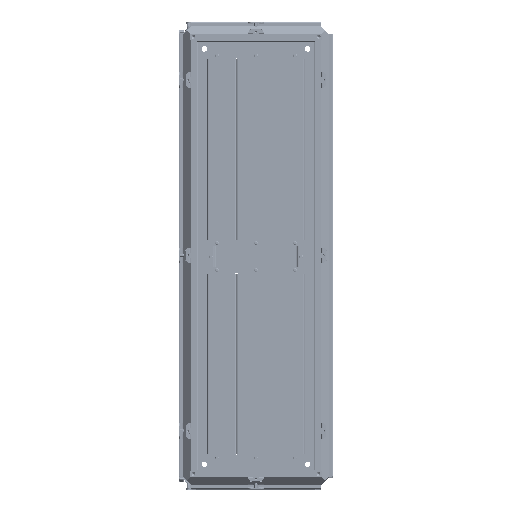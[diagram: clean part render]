
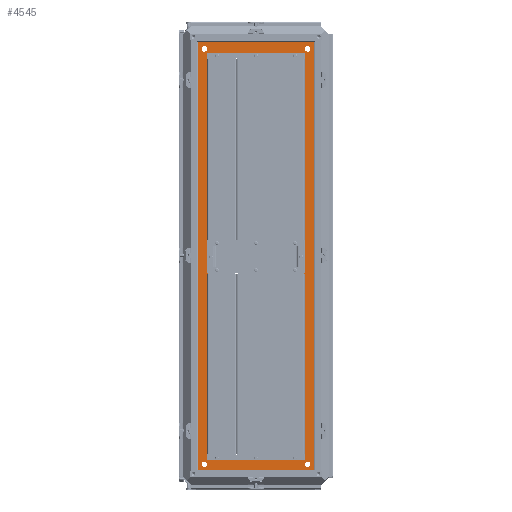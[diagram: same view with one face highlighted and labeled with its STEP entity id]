
A CAD part, top view. The second image highlights one B-rep face of the part: STEP entity #4545.
In plain terms, the highlighted planar face has unit normal (0, 0, 1).
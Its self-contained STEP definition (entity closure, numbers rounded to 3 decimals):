
#4545=ADVANCED_FACE('',(#18127,#18129,#18131,#18133,#18135,#18137),#18139,.F.);
#18127=FACE_BOUND('',#18128,.T.);
#18128=EDGE_LOOP('',(#123587,#123588,#123589,#123590));
#18129=FACE_BOUND('',#18130,.T.);
#18130=EDGE_LOOP('',(#123591,#123592,#123593,#123594));
#18131=FACE_BOUND('',#18132,.T.);
#18132=EDGE_LOOP('',(#123595));
#18133=FACE_BOUND('',#18134,.T.);
#18134=EDGE_LOOP('',(#123596));
#18135=FACE_BOUND('',#18136,.T.);
#18136=EDGE_LOOP('',(#123597));
#18137=FACE_BOUND('',#18138,.T.);
#18138=EDGE_LOOP('',(#123598));
#18139=PLANE('',#18140);
#18140=AXIS2_PLACEMENT_3D('',#18141,#18142,#18143);
#18141=CARTESIAN_POINT('',(0.,0.,-47.5));
#18142=DIRECTION('',(0.,0.,-1.));
#18143=DIRECTION('',(0.,1.,0.));
#123587=ORIENTED_EDGE('',*,*,#187289,.F.);
#123588=ORIENTED_EDGE('',*,*,#187290,.F.);
#123589=ORIENTED_EDGE('',*,*,#187291,.T.);
#123590=ORIENTED_EDGE('',*,*,#187292,.T.);
#123591=ORIENTED_EDGE('',*,*,#187293,.T.);
#123592=ORIENTED_EDGE('',*,*,#187294,.F.);
#123593=ORIENTED_EDGE('',*,*,#187295,.F.);
#123594=ORIENTED_EDGE('',*,*,#187296,.F.);
#123595=ORIENTED_EDGE('',*,*,#187297,.T.);
#123596=ORIENTED_EDGE('',*,*,#187298,.F.);
#123597=ORIENTED_EDGE('',*,*,#187299,.F.);
#123598=ORIENTED_EDGE('',*,*,#187300,.T.);
#187289=EDGE_CURVE('',#220072,#220073,#220074,.F.);
#187290=EDGE_CURVE('',#220075,#220072,#220076,.F.);
#187291=EDGE_CURVE('',#220075,#220077,#220078,.F.);
#187292=EDGE_CURVE('',#220077,#220073,#220079,.F.);
#187293=EDGE_CURVE('',#220080,#220081,#220082,.F.);
#187294=EDGE_CURVE('',#220083,#220081,#220084,.F.);
#187295=EDGE_CURVE('',#220085,#220083,#220086,.F.);
#187296=EDGE_CURVE('',#220080,#220085,#220087,.F.);
#187297=EDGE_CURVE('',#220088,#220088,#220089,.T.);
#187298=EDGE_CURVE('',#220090,#220090,#220091,.T.);
#187299=EDGE_CURVE('',#220092,#220092,#220093,.T.);
#187300=EDGE_CURVE('',#220094,#220094,#220095,.T.);
#220072=VERTEX_POINT('',#277141);
#220073=VERTEX_POINT('',#277142);
#220074=LINE('',#277143,#277144);
#220075=VERTEX_POINT('',#277146);
#220076=LINE('',#277147,#277148);
#220077=VERTEX_POINT('',#277150);
#220078=LINE('',#277151,#277152);
#220079=LINE('',#277154,#277155);
#220080=VERTEX_POINT('',#277157);
#220081=VERTEX_POINT('',#277158);
#220082=LINE('',#277159,#277160);
#220083=VERTEX_POINT('',#277162);
#220084=LINE('',#277163,#277164);
#220085=VERTEX_POINT('',#277166);
#220086=LINE('',#277167,#277168);
#220087=LINE('',#277170,#277171);
#220088=VERTEX_POINT('',#277173);
#220089=CIRCLE('',#277174,7.);
#220090=VERTEX_POINT('',#277178);
#220091=CIRCLE('',#277179,7.);
#220092=VERTEX_POINT('',#277183);
#220093=CIRCLE('',#277184,7.);
#220094=VERTEX_POINT('',#277188);
#220095=CIRCLE('',#277189,7.);
#277141=CARTESIAN_POINT('',(-1.6,1.6,-47.5));
#277142=CARTESIAN_POINT('',(-300.4,1.6,-47.5));
#277143=CARTESIAN_POINT('',(-300.4,1.6,-47.5));
#277144=VECTOR('',#277145,1.);
#277145=DIRECTION('',(1.,0.,0.));
#277146=CARTESIAN_POINT('',(-1.6,1100.4,-47.5));
#277147=CARTESIAN_POINT('',(-1.6,1.6,-47.5));
#277148=VECTOR('',#277149,1.);
#277149=DIRECTION('',(0.,1.,0.));
#277150=CARTESIAN_POINT('',(-300.4,1100.4,-47.5));
#277151=CARTESIAN_POINT('',(-300.4,1100.4,-47.5));
#277152=VECTOR('',#277153,1.);
#277153=DIRECTION('',(1.,0.,0.));
#277154=CARTESIAN_POINT('',(-300.4,1.6,-47.5));
#277155=VECTOR('',#277156,1.);
#277156=DIRECTION('',(0.,1.,0.));
#277157=CARTESIAN_POINT('',(-39.4,39.4,-47.5));
#277158=CARTESIAN_POINT('',(-262.6,39.4,-47.5));
#277159=CARTESIAN_POINT('',(-262.6,39.4,-47.5));
#277160=VECTOR('',#277161,1.);
#277161=DIRECTION('',(1.,0.,0.));
#277162=CARTESIAN_POINT('',(-262.6,1062.6,-47.5));
#277163=CARTESIAN_POINT('',(-262.6,39.4,-47.5));
#277164=VECTOR('',#277165,1.);
#277165=DIRECTION('',(0.,1.,0.));
#277166=CARTESIAN_POINT('',(-39.4,1062.6,-47.5));
#277167=CARTESIAN_POINT('',(-262.6,1062.6,-47.5));
#277168=VECTOR('',#277169,1.);
#277169=DIRECTION('',(1.,0.,0.));
#277170=CARTESIAN_POINT('',(-39.4,1062.6,-47.5));
#277171=VECTOR('',#277172,1.);
#277172=DIRECTION('',(0.,-1.,0.));
#277173=CARTESIAN_POINT('',(-18.5,25.5,-47.5));
#277174=AXIS2_PLACEMENT_3D('',#277175,#277176,#277177);
#277175=CARTESIAN_POINT('',(-18.5,18.5,-47.5));
#277176=DIRECTION('',(0.,0.,-1.));
#277177=DIRECTION('',(0.,1.,0.));
#277178=CARTESIAN_POINT('',(-283.5,25.5,-47.5));
#277179=AXIS2_PLACEMENT_3D('',#277180,#277181,#277182);
#277180=CARTESIAN_POINT('',(-283.5,18.5,-47.5));
#277181=DIRECTION('',(0.,0.,1.));
#277182=DIRECTION('',(0.,1.,0.));
#277183=CARTESIAN_POINT('',(-18.5,1076.5,-47.5));
#277184=AXIS2_PLACEMENT_3D('',#277185,#277186,#277187);
#277185=CARTESIAN_POINT('',(-18.5,1083.5,-47.5));
#277186=DIRECTION('',(0.,0.,1.));
#277187=DIRECTION('',(0.,-1.,0.));
#277188=CARTESIAN_POINT('',(-283.5,1076.5,-47.5));
#277189=AXIS2_PLACEMENT_3D('',#277190,#277191,#277192);
#277190=CARTESIAN_POINT('',(-283.5,1083.5,-47.5));
#277191=DIRECTION('',(0.,0.,-1.));
#277192=DIRECTION('',(0.,-1.,0.));
